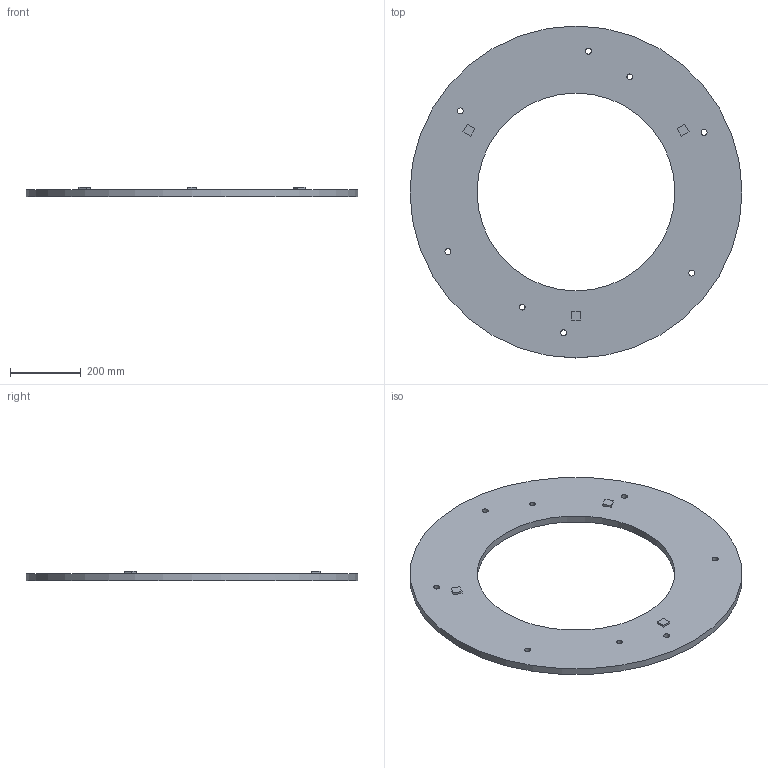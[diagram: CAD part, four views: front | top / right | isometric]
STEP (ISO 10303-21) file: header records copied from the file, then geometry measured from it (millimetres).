
FILE_DESCRIPTION(('Open CASCADE Model'),'2;1');
FILE_NAME('Open CASCADE Shape Model','2026-09-07T11:14:07',('Author'),( 'Open CASCADE'),'Open CASCADE STEP processor 7.9','Open CASCADE 7.9' ,'Unknown');
FILE_SCHEMA(('AUTOMOTIVE_DESIGN { 1 0 10303 214 1 1 1 1 }'));
Length unit declared in the file: millimetre
Products named in the file (1): Open CASCADE STEP translator 7.9 7
Bounding box: 940 x 940 x 26 mm (x, y, z)
Volume: 8929509 mm3; surface area: 996293.1 mm2
Topology: 1 solids, 1 shells, 27 faces, 66 edges, 44 vertices
Faces by surface type: plane 17, cylinder 10
Full cylindrical faces by diameter (mm): 16 x2, 17 x6, 560 x1, 940 x1
Entity records: 1752 total; most frequent: CARTESIAN_POINT 366, DIRECTION 258, LINE 158, VECTOR 158, ORIENTED_EDGE 132, PCURVE 132, DEFINITIONAL_REPRESENTATION 132, EDGE_CURVE 66
